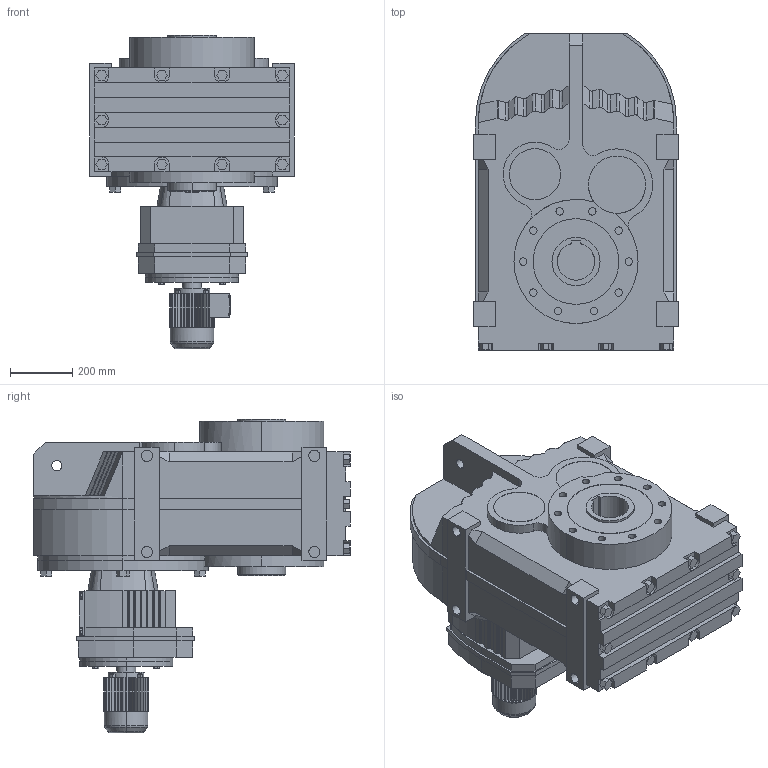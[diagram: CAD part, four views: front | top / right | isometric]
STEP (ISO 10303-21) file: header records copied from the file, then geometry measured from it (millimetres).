
FILE_DESCRIPTION(('Open CASCADE Model'),'2;1');
FILE_NAME('Open CASCADE Shape Model','2021-07-24T10:53:48',('Author'),( 'Open CASCADE'),'Open CASCADE STEP processor 6.3','Open CASCADE 6.3' ,'Unknown');
FILE_SCHEMA(('AUTOMOTIVE_DESIGN_CC2 { 1 2 10303 214 -1 1 5 4 }'));
Length unit declared in the file: millimetre
Products named in the file (5): 1_FA157R97DT80; FA27‵157_157.step; 萇儂_300-DT80-231-295-145-122.step; R_157_97.step; す瑩諾陑粣F_157.step
Assembly tree (4 placements, depth 2):
  1_FA157R97DT80
    FA27‵157_157.step
    萇儂_300-DT80-231-295-145-122.step
    R_157_97.step
    す瑩諾陑粣F_157.step
Bounding box: 660 x 1021 x 1011 mm (x, y, z)
Volume: 247671464.6 mm3; surface area: 4850469.4 mm2
Topology: 4 solids, 4 shells, 1013 faces, 2685 edges, 1758 vertices
Faces by surface type: plane 753, cylinder 230, bspline 16, cone 10, torus 4
Entity records: 67831 total; most frequent: CARTESIAN_POINT 15789, DIRECTION 9200, LINE 5487, VECTOR 5487, ORIENTED_EDGE 5370, PCURVE 5370, DEFINITIONAL_REPRESENTATION 5370, EDGE_CURVE 2685
